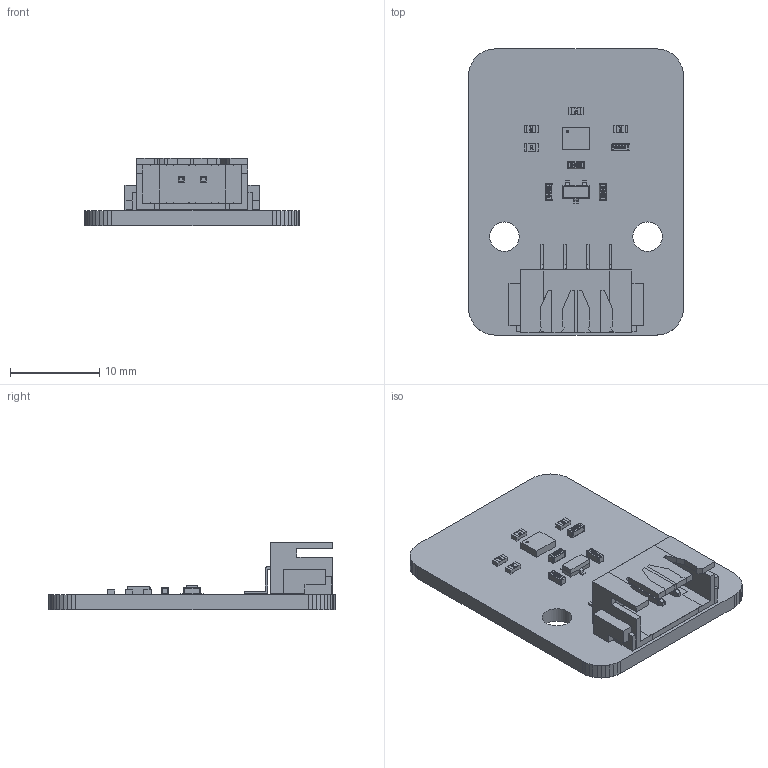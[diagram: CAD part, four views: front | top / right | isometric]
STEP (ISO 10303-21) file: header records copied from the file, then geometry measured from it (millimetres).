
FILE_DESCRIPTION(('Open CASCADE Model'),'2;1');
FILE_NAME('Open CASCADE Shape Model','2025-05-12T21:26:09',('Author'),( 'Open CASCADE'),'Open CASCADE STEP processor 6.5','Open CASCADE 6.5' ,'Unknown');
FILE_SCHEMA(('AUTOMOTIVE_DESIGN { 1 0 10303 214 1 1 1 1 }'));
Length unit declared in the file: millimetre
Products named in the file (18): PCB; Board; U2; User_Library-LGA-14L; R3; 0603_R; U1; CircuitWorks-SOT-23; C3; User_Library-0603(1608M)_Cap; P1; 4pin-2.5; R2; R4; R1; C1; C2; C4
Assembly tree (23 placements, depth 3):
  PCB
    Board
    U2
      User_Library-LGA-14L
    R3
      0603_R
    U1
      CircuitWorks-SOT-23
    C3
      User_Library-0603(1608M)_Cap
    P1
      4pin-2.5
    R2
      0603_R
    R4
      0603_R
    R1
      0603_R
    C1
      User_Library-0603(1608M)_Cap
    C2
      User_Library-0603(1608M)_Cap
    C4
      User_Library-0603(1608M)_Cap
Bounding box: 24.02 x 32.02 x 7.57 mm (x, y, z)
Volume: 1575.4 mm3; surface area: 2844.1 mm2
Topology: 21 solids, 21 shells, 1081 faces, 2831 edges, 1821 vertices
Faces by surface type: plane 649, bspline 290, cylinder 122, extrusion 20
Full cylindrical faces by diameter (mm): 3.3 x2
Entity records: 52828 total; most frequent: CARTESIAN_POINT 18691, DIRECTION 5056, VECTOR 3688, LINE 3683, ORIENTED_EDGE 3162, PCURVE 3162, DEFINITIONAL_REPRESENTATION 3162, EDGE_CURVE 1581
